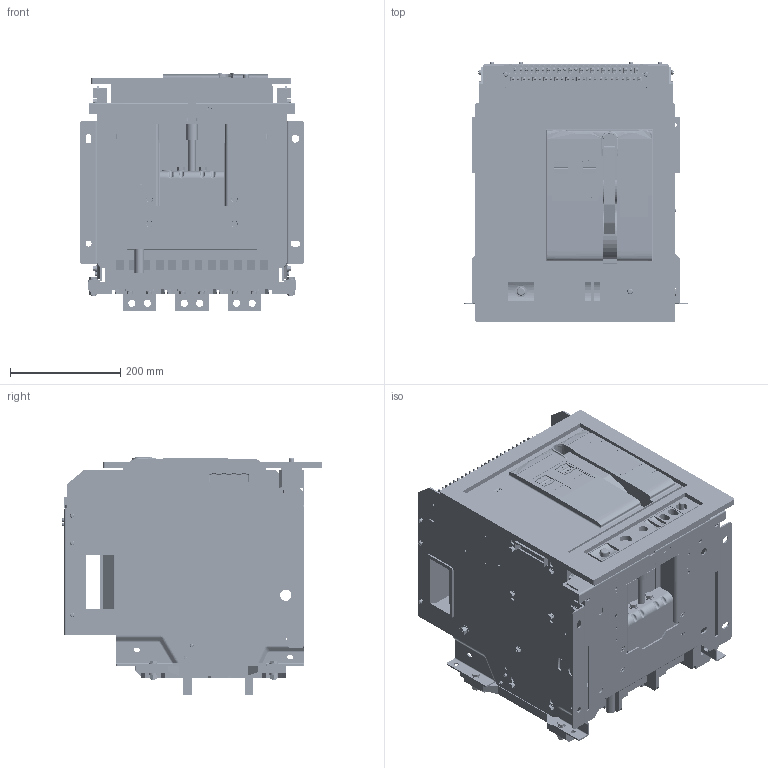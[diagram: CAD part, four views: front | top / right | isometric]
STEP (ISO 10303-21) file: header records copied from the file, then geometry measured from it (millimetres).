
FILE_DESCRIPTION (( 'STEP AP214' ), '1' );
FILE_NAME ('TENGEN_TGW1N-2000_3P_800-1600A.STEP', '2026-06-01T09:58:27', ( '' ), ( '' ), 'SwSTEP 2.0', 'SolidWorks 2024', '' );
FILE_SCHEMA (( 'AUTOMOTIVE_DESIGN' ));
Length unit declared in the file: millimetre
Products named in the file (51): 8TZD_235_1114_34_1_1_1_1.stp.STEP; 8TZD_860_1386_5_1_1_1_1.stp.STEP; PRT0021_1_1_1_1_1_1.stp.STEP; TENGEN_TGW1N-2000_3P_800-1600A; PRT0028_1_1_1_1_1_1.stp.STEP; PRT0011_1_1_1_1_1_1.stp.STEP; ASM0002_ASM_1_ASM_1_ASM_1_ASM_1_ASM.stp.STEP; 8TZD_253_1324_21_1_1_1_1.stp.STEP; PRT0015_1_1_1_1_1_1.stp.STEP; 8TZD_282_1271_AF2_11_1_1_1_1.stp.STEP; TENGEN_Рамка_2000_Drawer; 8TZD_282_1271_AF1_11_1_1_1_1.stp.STEP; PRT0005_1_1_1_1_1_1.stp.STEP; TENGEN_TGW45-2000_0002_ASM_1_AS_ASM.stp.STEP; PRT0017_1_1_1_1_1_1.stp.STEP; PRT0023_1_1_1_1_1_1.stp.STEP; PRT0025_1_1_1_1_1_1.stp.STEP; PRT0024_1_1_1_1_1_1.stp.STEP; 8TZD-253-1323_8_1_1_1_1.stp.STEP; 5TZD_005_1023_ASM_23_ASM_1_ASM__ASM.stp.STEP; PRT0002_1_1_1_1_1_1.stp.STEP; 8TZD_253_1325_22_1_1_1_1.stp.STEP; PRT0008_1_1_1_1_1_1.stp.STEP; PRT0012_1_1_1_1_1_1.stp.STEP; 8TZD_321_1011_43_1_1_1_1.stp.STEP; PRT0016_1_1_1_1_1_1.stp.STEP; PRT0014_1_1_1_1_1_1.stp.STEP; GB_T9074_4-M6X80_4_1_1_1_1.stp.STEP; PRT0020_1_1_1_1_1_1.stp.STEP; PRT0013_1_1_1_1_1_1.stp.STEP; PRT0007_1_1_1_1_1_1.stp.STEP; PRT0018_1_1_1_1_1_1.stp.STEP; 2000A3P-CTSP_ASM_2_ASM_1_ASM_1__ASM.stp.STEP; ASM0001_ASM_1_ASM_1_ASM_1_ASM_1_ASM.stp.STEP; PRT0031_1_1_1_1_1_1.stp.STEP; MANIFOLD_SOLID_BREP_64659_12_1_.stp.STEP; PRT0009_1_1_1_1_1_1.stp.STEP; PRT0010_1_1_1_1_1_1.stp.STEP; PRT0026_1_1_1_1_1_1.stp.STEP; 2000ZHAOKE_ASM_1_ASM_1_ASM_1_AS_ASM.stp.STEP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
Assembly tree (53 placements, depth 6):
  TENGEN_TGW1N-2000_3P_800-1600A
    TENGEN_Рамка_2000_Drawer
    TENGEN_TGW45-2000_0002_ASM_1_AS_ASM.stp.STEP
      2000A3P-CTSP_ASM_2_ASM_1_ASM_1__ASM.stp.STEP
        ASM0001_ASM_1_ASM_1_ASM_1_ASM_1_ASM.stp.STEP
          ASM0002_ASM_1_ASM_1_ASM_1_ASM_1_ASM.stp.STEP
            PRT0002_1_1_1_1_1_1.stp.STEP
            PRT0004_1_1_1_1_1_1.stp.STEP
            PRT0005_1_1_1_1_1_1.stp.STEP
            PRT0006_1_1_1_1_1_1.stp.STEP
            PRT0007_1_1_1_1_1_1.stp.STEP
            PRT0008_1_1_1_1_1_1.stp.STEP
            PRT0009_1_1_1_1_1_1.stp.STEP
            PRT0010_1_1_1_1_1_1.stp.STEP
            PRT0011_1_1_1_1_1_1.stp.STEP
            PRT0012_1_1_1_1_1_1.stp.STEP
            PRT0013_1_1_1_1_1_1.stp.STEP
            PRT0014_1_1_1_1_1_1.stp.STEP
            PRT0015_1_1_1_1_1_1.stp.STEP
            PRT0016_1_1_1_1_1_1.stp.STEP
            PRT0017_1_1_1_1_1_1.stp.STEP
            PRT0018_1_1_1_1_1_1.stp.STEP
            PRT0019_1_1_1_1_1_1.stp.STEP
            PRT0020_1_1_1_1_1_1.stp.STEP
            PRT0021_1_1_1_1_1_1.stp.STEP
            PRT0022_1_1_1_1_1_1.stp.STEP
            PRT0023_1_1_1_1_1_1.stp.STEP
            PRT0024_1_1_1_1_1_1.stp.STEP
            PRT0025_1_1_1_1_1_1.stp.STEP
            PRT0026_1_1_1_1_1_1.stp.STEP
            PRT0027_1_1_1_1_1_1.stp.STEP
            PRT0028_1_1_1_1_1_1.stp.STEP
            PRT0029_1_1_1_1_1_1.stp.STEP
            PRT0030_1_1_1_1_1_1.stp.STEP
            PRT0031_1_1_1_1_1_1.stp.STEP
      2000ZHAOKE_ASM_ASM_1_ASM_1_ASM__ASM.stp.STEP
        2000ZHAOKE_ASM_1_ASM_1_ASM_1_AS_ASM.stp.STEP
          5TZD_005_1023_ASM_23_ASM_1_ASM__ASM.stp.STEP
            8TZD_005_1074_85_1_1_1_1.stp.STEP
            8TZD_253_1322_28_1_1_1_1.stp.STEP
            8TZD_282_1272_AF0_7_1_1_1_1.stp.STEP
            8TZD_235_1114_34_1_1_1_1.stp.STEP
            8TZD_282_1271_AF1_11_1_1_1_1.stp.STEP
            8TZD_282_1271_AF2_11_1_1_1_1.stp.STEP
            8TZD_253_1325_22_1_1_1_1.stp.STEP
            8TZD_253_1324_21_1_1_1_1.stp.STEP
            8TZD_321_1011_43_1_1_1_1.stp.STEP
            8TZD_860_1386_5_1_1_1_1.stp.STEP
          8TZD-253-1323_8_1_1_1_1.stp.STEP
          MANIFOLD_SOLID_BREP_64659_12_1_.stp.STEP
          GB_T9074_4-M6X80_4_1_1_1_1.stp.STEP  x4
Bounding box: 406 x 471.2 x 431.42 mm (x, y, z)
Volume: 25756759.1 mm3; surface area: 3649118.4 mm2
Topology: 43 solids, 53 shells, 9678 faces, 25948 edges, 16679 vertices
Faces by surface type: plane 7053, cylinder 1947, bspline 322, torus 197, sphere 84, cone 75
Entity records: 375224 total; most frequent: CARTESIAN_POINT 136579, ORIENTED_EDGE 51076, DIRECTION 46460, EDGE_CURVE 25540, VECTOR 18048, LINE 18048, VERTEX_POINT 16511, AXIS2_PLACEMENT_3D 14206
